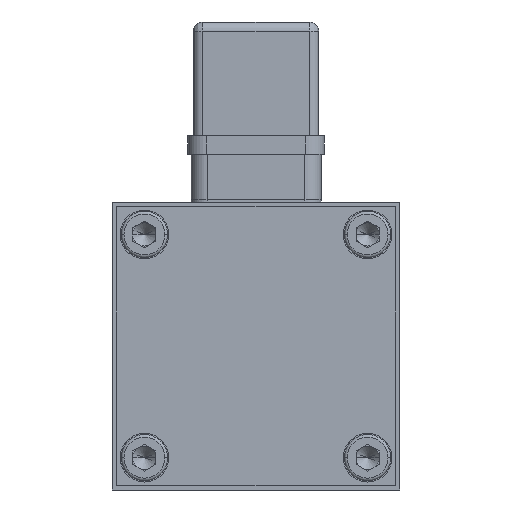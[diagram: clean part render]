
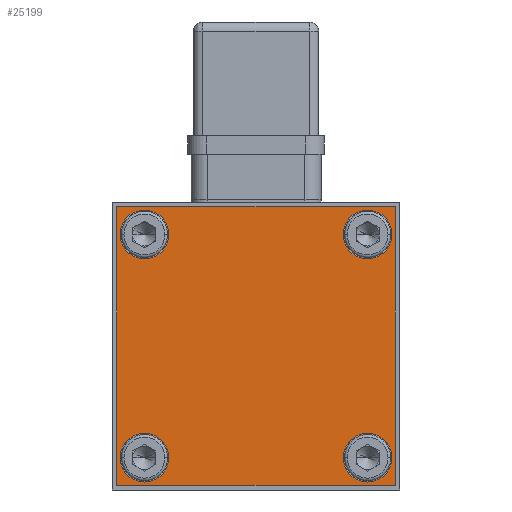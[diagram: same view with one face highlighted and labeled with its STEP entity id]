
A CAD part, left-side view. The second image highlights one B-rep face of the part: STEP entity #25199.
In plain terms, the highlighted planar face has unit normal (-1, 0, 0).
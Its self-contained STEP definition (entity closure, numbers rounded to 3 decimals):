
#514 = CARTESIAN_POINT ( 'NONE',  ( -17.8, 24.04, 24.04 ) ) ;
#763 = FACE_BOUND ( 'NONE', #28201, .T. ) ;
#773 = EDGE_LOOP ( 'NONE', ( #870, #24111, #36736, #2169 ) ) ;
#870 = ORIENTED_EDGE ( 'NONE', *, *, #34091, .F. ) ;
#965 = EDGE_CURVE ( 'NONE', #6198, #16183, #30314, .T. ) ;
#1091 = DIRECTION ( 'NONE',  ( -1., 0., 0. ) ) ;
#1188 = CARTESIAN_POINT ( 'NONE',  ( -17.8, 30., 30. ) ) ;
#2169 = ORIENTED_EDGE ( 'NONE', *, *, #10904, .F. ) ;
#2474 = VERTEX_POINT ( 'NONE', #7283 ) ;
#2754 = CARTESIAN_POINT ( 'NONE',  ( -17.8, -18.79, 24.04 ) ) ;
#3094 = VERTEX_POINT ( 'NONE', #37606 ) ;
#3717 = DIRECTION ( 'NONE',  ( 0., 1., 0. ) ) ;
#4320 = DIRECTION ( 'NONE',  ( 0., -1., 0. ) ) ;
#4772 = EDGE_CURVE ( 'NONE', #9386, #24734, #25516, .T. ) ;
#5896 = CARTESIAN_POINT ( 'NONE',  ( -17.8, -24.04, -24.04 ) ) ;
#6198 = VERTEX_POINT ( 'NONE', #7734 ) ;
#6673 = DIRECTION ( 'NONE',  ( -1., 0., 0. ) ) ;
#6950 = EDGE_LOOP ( 'NONE', ( #12065, #8247 ) ) ;
#7052 = PLANE ( 'NONE',  #7912 ) ;
#7283 = CARTESIAN_POINT ( 'NONE',  ( -17.8, -29.29, -24.04 ) ) ;
#7484 = AXIS2_PLACEMENT_3D ( 'NONE', #5896, #28154, #9122 ) ;
#7734 = CARTESIAN_POINT ( 'NONE',  ( -17.8, 18.79, 24.04 ) ) ;
#7912 = AXIS2_PLACEMENT_3D ( 'NONE', #20191, #1091, #23379 ) ;
#8226 = DIRECTION ( 'NONE',  ( -1., 0., 0. ) ) ;
#8233 = EDGE_CURVE ( 'NONE', #25066, #26072, #36927, .T. ) ;
#8247 = ORIENTED_EDGE ( 'NONE', *, *, #32549, .F. ) ;
#9122 = DIRECTION ( 'NONE',  ( 0., 1., 0. ) ) ;
#9240 = FACE_BOUND ( 'NONE', #6950, .T. ) ;
#9386 = VERTEX_POINT ( 'NONE', #2754 ) ;
#9915 = CARTESIAN_POINT ( 'NONE',  ( -17.8, 24.04, 24.04 ) ) ;
#10368 = AXIS2_PLACEMENT_3D ( 'NONE', #36280, #17186, #39447 ) ;
#10586 = CARTESIAN_POINT ( 'NONE',  ( -17.8, 30., 30. ) ) ;
#10904 = EDGE_CURVE ( 'NONE', #30774, #28936, #13987, .T. ) ;
#11029 = EDGE_CURVE ( 'NONE', #24734, #9386, #17953, .T. ) ;
#11866 = AXIS2_PLACEMENT_3D ( 'NONE', #9915, #32209, #13115 ) ;
#12029 = CIRCLE ( 'NONE', #7484, 5.25 ) ;
#12065 = ORIENTED_EDGE ( 'NONE', *, *, #19411, .F. ) ;
#12160 = CARTESIAN_POINT ( 'NONE',  ( -17.8, -30., 30. ) ) ;
#13037 = CARTESIAN_POINT ( 'NONE',  ( -17.8, 29.29, 24.04 ) ) ;
#13115 = DIRECTION ( 'NONE',  ( 0., 1., 0. ) ) ;
#13987 = LINE ( 'NONE', #10586, #22474 ) ;
#14354 = AXIS2_PLACEMENT_3D ( 'NONE', #25760, #6673, #28943 ) ;
#15150 = DIRECTION ( 'NONE',  ( -1., 0., 0. ) ) ;
#15180 = CARTESIAN_POINT ( 'NONE',  ( -17.8, 24.04, -24.04 ) ) ;
#15904 = CARTESIAN_POINT ( 'NONE',  ( -17.8, -18.79, -24.04 ) ) ;
#16009 = LINE ( 'NONE', #33967, #23497 ) ;
#16183 = VERTEX_POINT ( 'NONE', #13037 ) ;
#16784 = LINE ( 'NONE', #32190, #41224 ) ;
#17186 = DIRECTION ( 'NONE',  ( -1., 0., 0. ) ) ;
#17701 = FACE_BOUND ( 'NONE', #28209, .T. ) ;
#17953 = CIRCLE ( 'NONE', #28718, 5.25 ) ;
#18392 = DIRECTION ( 'NONE',  ( 0., 1., 0. ) ) ;
#19411 = EDGE_CURVE ( 'NONE', #40913, #2474, #23347, .T. ) ;
#19601 = ORIENTED_EDGE ( 'NONE', *, *, #965, .F. ) ;
#19832 = ORIENTED_EDGE ( 'NONE', *, *, #21223, .F. ) ;
#20191 = CARTESIAN_POINT ( 'NONE',  ( -17.8, 30., -30. ) ) ;
#20196 = AXIS2_PLACEMENT_3D ( 'NONE', #34243, #15150, #37420 ) ;
#21223 = EDGE_CURVE ( 'NONE', #26072, #25066, #26114, .T. ) ;
#22015 = EDGE_CURVE ( 'NONE', #40365, #3094, #16009, .T. ) ;
#22225 = ORIENTED_EDGE ( 'NONE', *, *, #11029, .F. ) ;
#22420 = CARTESIAN_POINT ( 'NONE',  ( -17.8, 29.29, -24.04 ) ) ;
#22474 = VECTOR ( 'NONE', #4320, 1000. ) ;
#22807 = DIRECTION ( 'NONE',  ( -1., 0., 0. ) ) ;
#23347 = CIRCLE ( 'NONE', #14354, 5.25 ) ;
#23379 = DIRECTION ( 'NONE',  ( 0., 1., 0. ) ) ;
#23497 = VECTOR ( 'NONE', #24456, 1000. ) ;
#24111 = ORIENTED_EDGE ( 'NONE', *, *, #22015, .F. ) ;
#24115 = CARTESIAN_POINT ( 'NONE',  ( -17.8, 18.79, -24.04 ) ) ;
#24451 = EDGE_CURVE ( 'NONE', #16183, #6198, #38707, .T. ) ;
#24456 = DIRECTION ( 'NONE',  ( 0., 1., 0. ) ) ;
#24734 = VERTEX_POINT ( 'NONE', #30203 ) ;
#25044 = VECTOR ( 'NONE', #40591, 1000. ) ;
#25066 = VERTEX_POINT ( 'NONE', #22420 ) ;
#25199 = ADVANCED_FACE ( 'NONE', ( #9240, #41140, #763, #17701, #32658 ), #7052, .T. ) ;
#25516 = CIRCLE ( 'NONE', #20196, 5.25 ) ;
#25760 = CARTESIAN_POINT ( 'NONE',  ( -17.8, -24.04, -24.04 ) ) ;
#26064 = ORIENTED_EDGE ( 'NONE', *, *, #24451, .F. ) ;
#26072 = VERTEX_POINT ( 'NONE', #24115 ) ;
#26114 = CIRCLE ( 'NONE', #10368, 5.25 ) ;
#27262 = CARTESIAN_POINT ( 'NONE',  ( -17.8, -24.04, 24.04 ) ) ;
#28154 = DIRECTION ( 'NONE',  ( -1., 0., 0. ) ) ;
#28201 = EDGE_LOOP ( 'NONE', ( #26064, #19601 ) ) ;
#28209 = EDGE_LOOP ( 'NONE', ( #29396, #22225 ) ) ;
#28718 = AXIS2_PLACEMENT_3D ( 'NONE', #27262, #8226, #30464 ) ;
#28936 = VERTEX_POINT ( 'NONE', #12160 ) ;
#28943 = DIRECTION ( 'NONE',  ( 0., 1., 0. ) ) ;
#29396 = ORIENTED_EDGE ( 'NONE', *, *, #4772, .F. ) ;
#30203 = CARTESIAN_POINT ( 'NONE',  ( -17.8, -29.29, 24.04 ) ) ;
#30314 = CIRCLE ( 'NONE', #33045, 5.25 ) ;
#30464 = DIRECTION ( 'NONE',  ( 0., 1., 0. ) ) ;
#30774 = VERTEX_POINT ( 'NONE', #1188 ) ;
#32190 = CARTESIAN_POINT ( 'NONE',  ( -17.8, -30., 30. ) ) ;
#32209 = DIRECTION ( 'NONE',  ( -1., 0., 0. ) ) ;
#32549 = EDGE_CURVE ( 'NONE', #2474, #40913, #12029, .T. ) ;
#32658 = FACE_OUTER_BOUND ( 'NONE', #773, .T. ) ;
#33045 = AXIS2_PLACEMENT_3D ( 'NONE', #514, #22807, #3717 ) ;
#33861 = ORIENTED_EDGE ( 'NONE', *, *, #8233, .F. ) ;
#33967 = CARTESIAN_POINT ( 'NONE',  ( -17.8, 30., -30. ) ) ;
#34091 = EDGE_CURVE ( 'NONE', #3094, #30774, #34534, .T. ) ;
#34243 = CARTESIAN_POINT ( 'NONE',  ( -17.8, -24.04, 24.04 ) ) ;
#34534 = LINE ( 'NONE', #37352, #25044 ) ;
#35393 = DIRECTION ( 'NONE',  ( 0., 0., -1. ) ) ;
#36280 = CARTESIAN_POINT ( 'NONE',  ( -17.8, 24.04, -24.04 ) ) ;
#36736 = ORIENTED_EDGE ( 'NONE', *, *, #38720, .F. ) ;
#36927 = CIRCLE ( 'NONE', #37885, 5.25 ) ;
#37352 = CARTESIAN_POINT ( 'NONE',  ( -17.8, 30., 30. ) ) ;
#37420 = DIRECTION ( 'NONE',  ( 0., 1., 0. ) ) ;
#37449 = DIRECTION ( 'NONE',  ( -1., 0., 0. ) ) ;
#37606 = CARTESIAN_POINT ( 'NONE',  ( -17.8, 30., -30. ) ) ;
#37885 = AXIS2_PLACEMENT_3D ( 'NONE', #15180, #37449, #18392 ) ;
#38707 = CIRCLE ( 'NONE', #11866, 5.25 ) ;
#38720 = EDGE_CURVE ( 'NONE', #28936, #40365, #16784, .T. ) ;
#39447 = DIRECTION ( 'NONE',  ( 0., 1., 0. ) ) ;
#40021 = EDGE_LOOP ( 'NONE', ( #33861, #19832 ) ) ;
#40365 = VERTEX_POINT ( 'NONE', #41328 ) ;
#40591 = DIRECTION ( 'NONE',  ( 0., 0., 1. ) ) ;
#40913 = VERTEX_POINT ( 'NONE', #15904 ) ;
#41140 = FACE_BOUND ( 'NONE', #40021, .T. ) ;
#41224 = VECTOR ( 'NONE', #35393, 1000. ) ;
#41328 = CARTESIAN_POINT ( 'NONE',  ( -17.8, -30., -30. ) ) ;
